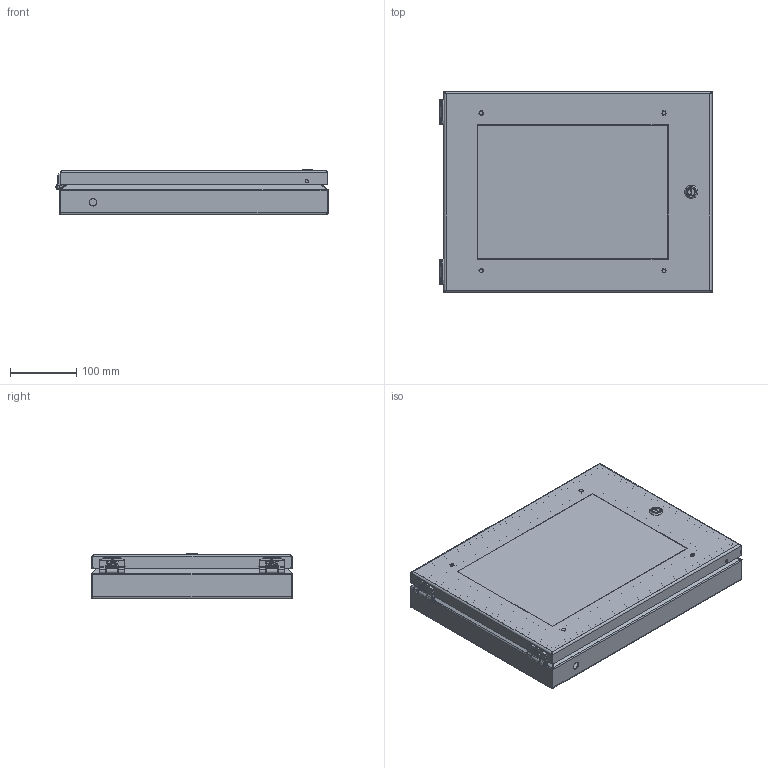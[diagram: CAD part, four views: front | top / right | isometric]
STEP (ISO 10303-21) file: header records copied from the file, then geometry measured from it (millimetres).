
FILE_DESCRIPTION((''),'2;1');
FILE_NAME('MODEL-409_ASM','2020-12-18T11:27:47',('joelb'),('SAGINAW CONTROL & ENGINEERING'),'CREO PARAMETRIC BY PTC INC, 2017260','CREO PARAMETRIC BY PTC INC, 2017260','');
FILE_SCHEMA(('AUTOMOTIVE_DESIGN { 1 0 10303 214 1 1 1 1 }'));
Length unit declared in the file: inch
Products named in the file (24): MODEL-409-BDY; 112643-BOX-LEAF; 112643-BOX-LEAF-STUD; 112643-BOX_ASM; 112643-DOOR-LEAF; 112643-DOOR-LEAF-STUD; 112643-DOOR_ASM; 112643-PIN; 112643_ASM; 113152; MODEL-409-DR; 112987_SHAFT; 112987_INSERT; 112984; 112987_SCREW; 112987_NUT; 112987_ASM; MODEL-409-LEX; MODEL-409-GSKT-DR; 113591; 100011; 117899; 118662; MODEL-409_ASM
Assembly tree (37 placements, depth 4):
  MODEL-409_ASM
    MODEL-409-BDY
    112643_ASM  x2
      112643-BOX_ASM
        112643-BOX-LEAF
        112643-BOX-LEAF-STUD
      112643-DOOR_ASM
        112643-DOOR-LEAF
        112643-DOOR-LEAF-STUD
      112643-PIN
    113152  x4
    MODEL-409-DR
    112987_ASM
      112987_SHAFT
      112987_INSERT
      112984
      112987_SCREW
      112987_NUT
    MODEL-409-LEX
    MODEL-409-GSKT-DR
    113591  x2
    100011  x4
    117899  x4
    118662  x4
Bounding box: 412 x 304.8 x 69.4 mm (x, y, z)
Volume: 812225 mm3; surface area: 639180.7 mm2
Topology: 36 solids, 38 shells, 2920 faces, 7478 edges, 4650 vertices
Faces by surface type: plane 1001, cylinder 876, bspline 785, cone 130, torus 108, sphere 20
Entity records: 102057 total; most frequent: CARTESIAN_POINT 54154, ORIENTED_EDGE 6816, DIRECTION 5781, EDGE_CURVE 3408, PRESENTATION_STYLE_ASSIGNMENT 3297, STYLED_ITEM 3282, CURVE_STYLE 2679, AXIS2_PLACEMENT_3D 2120
